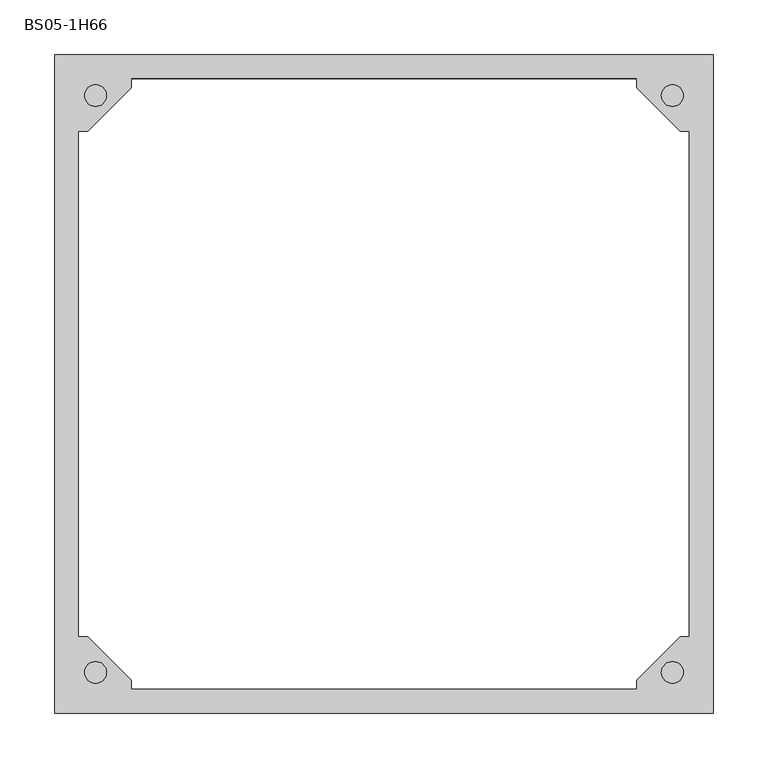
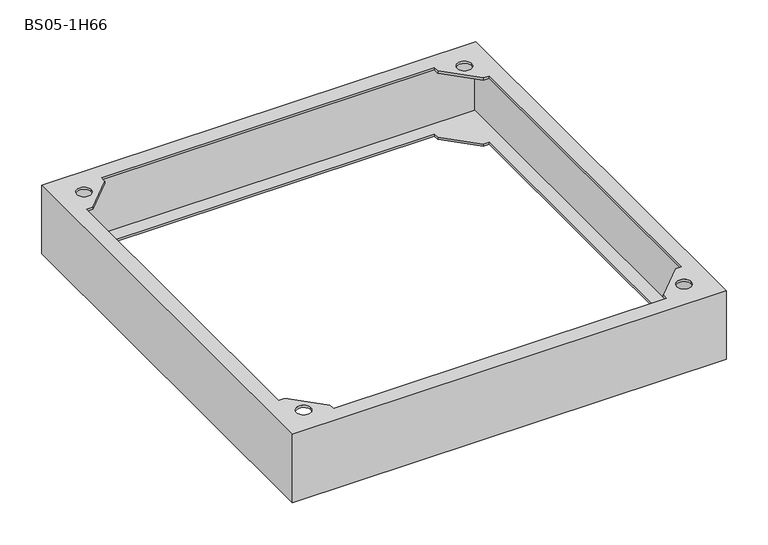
"""IFC4 building model written with IfcOpenShell, lengths in millimetres: proxy geometry, Цоколь для напольных шкафов : BS05-1H66."""

from ifc_helpers import new_model, si_unit, frame, origin, place, context, project, spatial, polyline, circle_curve, source, transform, mapped, element, save
from ifc_brep_helpers import plane_surface, revolved_surface, advanced_brep


def bs05_1h66_db48ce83(model_context):
    return source(origin(), model_context, "Body", "AdvancedBrep", [
        advanced_brep(
        [(300.0, -300.0, 100.0), (300.0, -300.0, 97.0), (300.0, -300.0, 3.0), (300.0, -300.0, 0.0), (300.0, 300.0, 0.0), (300.0, 300.0, 3.0), (300.0, 300.0, 97.0), (300.0, 300.0, 100.0), (278.0, 230.0, 0.0), (278.0, -230.0, 0.0), (278.0, -230.0, 3.0), (278.0, 230.0, 3.0), (297.0, 297.0, 97.0), (297.0, 297.0, 3.0), (297.0, -297.0, 3.0), (297.0, -297.0, 97.0), (278.0, 230.0, 97.0), (278.0, -230.0, 97.0), (278.0, -230.0, 100.0), (278.0, 230.0, 100.0), (-300.0, -300.0, 100.0), (-300.0, -300.0, 97.0), (-300.0, -300.0, 3.0), (-300.0, -300.0, 0.0), (230.0, -278.0, 0.0), (-230.0, -278.0, 0.0), (-230.0, -278.0, 3.0), (230.0, -278.0, 3.0), (-297.0, -297.0, 3.0), (-297.0, -297.0, 97.0), (230.0, -278.0, 97.0), (-230.0, -278.0, 97.0), (-230.0, -278.0, 100.0), (230.0, -278.0, 100.0), (-300.0, 300.0, 100.0), (-300.0, 300.0, 97.0), (-300.0, 300.0, 3.0), (-300.0, 300.0, 0.0), (-278.0, -230.0, 0.0), (-278.0, 230.0, 0.0), (-278.0, 230.0, 3.0), (-278.0, -230.0, 3.0), (-297.0, 297.0, 3.0), (-297.0, 297.0, 97.0), (-278.0, -230.0, 97.0), (-278.0, 230.0, 97.0), (-278.0, 230.0, 100.0), (-278.0, -230.0, 100.0), (-230.0, -270.0, 100.0), (-270.0, -230.0, 100.0), (-270.0, 230.0, 100.0), (-230.0, 270.0, 100.0), (-230.0, 278.0, 100.0), (230.0, 278.0, 100.0), (230.0, 270.0, 100.0), (270.0, 230.0, 100.0), (270.0, -230.0, 100.0), (230.0, -270.0, 100.0), (-252.9289322, -262.9289322, 100.0), (-272.9289322, -262.9289322, 100.0), (272.9289322, -262.9289322, 100.0), (252.9289322, -262.9289322, 100.0), (-252.9289322, 262.9289322, 100.0), (-272.9289322, 262.9289322, 100.0), (272.9289322, 262.9289322, 100.0), (252.9289322, 262.9289322, 100.0), (270.0, 230.0, 0.0), (230.0, 270.0, 0.0), (230.0, 278.0, 0.0), (-230.0, 278.0, 0.0), (-230.0, 270.0, 0.0), (-270.0, 230.0, 0.0), (-270.0, -230.0, 0.0), (-230.0, -270.0, 0.0), (230.0, -270.0, 0.0), (270.0, -230.0, 0.0), (230.0, 278.0, 3.0), (-230.0, 278.0, 3.0), (270.0, -230.0, 3.0), (230.0, -270.0, 3.0), (-230.0, -270.0, 3.0), (-270.0, -230.0, 3.0), (-270.0, 230.0, 3.0), (-230.0, 270.0, 3.0), (230.0, 270.0, 3.0), (270.0, 230.0, 3.0), (-270.0, -230.0, 97.0), (-230.0, -270.0, 97.0), (230.0, -270.0, 97.0), (270.0, -230.0, 97.0), (270.0, 230.0, 97.0), (230.0, 270.0, 97.0), (230.0, 278.0, 97.0), (-230.0, 278.0, 97.0), (-230.0, 270.0, 97.0), (-270.0, 230.0, 97.0), (-252.9289322, -262.9289322, 97.0), (-272.9289322, -262.9289322, 97.0), (272.9289322, -262.9289322, 97.0), (252.9289322, -262.9289322, 97.0), (-252.9289322, 262.9289322, 97.0), (-272.9289322, 262.9289322, 97.0), (272.9289322, 262.9289322, 97.0), (252.9289322, 262.9289322, 97.0)],
        [
            (0, 1),
            (1, 2),
            (2, 3),
            (3, 4),
            (4, 5),
            (5, 6),
            (6, 7),
            (7, 0),
            (8, 9),
            (9, 10),
            (10, 11),
            (11, 8),
            (12, 13),
            (13, 14),
            (14, 15),
            (15, 12),
            (16, 17),
            (17, 18),
            (18, 19),
            (19, 16),
            (0, 20),
            (20, 21),
            (21, 22),
            (22, 23),
            (23, 3),
            (24, 25),
            (25, 26),
            (26, 27),
            (27, 24),
            (14, 28),
            (28, 29),
            (29, 15),
            (30, 31),
            (31, 32),
            (32, 33),
            (33, 30),
            (20, 34),
            (34, 35),
            (35, 36),
            (36, 37),
            (37, 23),
            (38, 39),
            (39, 40),
            (40, 41),
            (41, 38),
            (28, 42),
            (42, 43),
            (43, 29),
            (44, 45),
            (45, 46),
            (46, 47),
            (47, 44),
            (7, 34),
            (48, 49),
            (49, 47),
            (46, 50),
            (50, 51),
            (51, 52),
            (52, 53),
            (53, 54),
            (54, 55),
            (55, 19),
            (18, 56),
            (56, 57),
            (57, 33),
            (32, 48),
            (58, 59, circle_curve(frame((-262.9289322, -262.9289322, 100.0), z_axis=(0.0, 0.0, -1.0), x_axis=(-1.0, 0.0, 0.0)), 10.0)),
            (59, 58, circle_curve(frame((-262.9289322, -262.9289322, 100.0), z_axis=(0.0, 0.0, -1.0), x_axis=(-1.0, 0.0, 0.0)), 10.0)),
            (60, 61, circle_curve(frame((262.9289322, -262.9289322, 100.0), z_axis=(0.0, 0.0, -1.0), x_axis=(-1.0, 0.0, 0.0)), 10.0)),
            (61, 60, circle_curve(frame((262.9289322, -262.9289322, 100.0), z_axis=(0.0, 0.0, -1.0), x_axis=(-1.0, 0.0, 0.0)), 10.0)),
            (62, 63, circle_curve(frame((-262.9289322, 262.9289322, 100.0), z_axis=(0.0, 0.0, -1.0), x_axis=(-1.0, 0.0, 0.0)), 10.0)),
            (63, 62, circle_curve(frame((-262.9289322, 262.9289322, 100.0), z_axis=(0.0, 0.0, -1.0), x_axis=(-1.0, 0.0, 0.0)), 10.0)),
            (64, 65, circle_curve(frame((262.9289322, 262.9289322, 100.0), z_axis=(0.0, 0.0, -1.0), x_axis=(-1.0, 0.0, 0.0)), 10.0)),
            (65, 64, circle_curve(frame((262.9289322, 262.9289322, 100.0), z_axis=(0.0, 0.0, -1.0), x_axis=(-1.0, 0.0, 0.0)), 10.0)),
            (4, 37),
            (8, 66),
            (66, 67),
            (67, 68),
            (68, 69),
            (69, 70),
            (70, 71),
            (71, 39),
            (38, 72),
            (72, 73),
            (73, 25),
            (24, 74),
            (74, 75),
            (75, 9),
            (68, 76),
            (76, 77),
            (77, 69),
            (13, 42),
            (10, 78),
            (78, 79),
            (79, 27),
            (26, 80),
            (80, 81),
            (81, 41),
            (40, 82),
            (82, 83),
            (83, 77),
            (76, 84),
            (84, 85),
            (85, 11),
            (12, 43),
            (86, 87),
            (87, 31),
            (30, 88),
            (88, 89),
            (89, 17),
            (16, 90),
            (90, 91),
            (91, 92),
            (92, 93),
            (93, 94),
            (94, 95),
            (95, 45),
            (44, 86),
            (96, 97, circle_curve(frame((-262.9289322, -262.9289322, 97.0), z_axis=(0.0, 0.0, 1.0), x_axis=(-1.0, 0.0, 0.0)), 10.0)),
            (97, 96, circle_curve(frame((-262.9289322, -262.9289322, 97.0), z_axis=(0.0, 0.0, 1.0), x_axis=(-1.0, 0.0, 0.0)), 10.0)),
            (98, 99, circle_curve(frame((262.9289322, -262.9289322, 97.0), z_axis=(0.0, 0.0, 1.0), x_axis=(-1.0, 0.0, 0.0)), 10.0)),
            (99, 98, circle_curve(frame((262.9289322, -262.9289322, 97.0), z_axis=(0.0, 0.0, 1.0), x_axis=(-1.0, 0.0, 0.0)), 10.0)),
            (100, 101, circle_curve(frame((-262.9289322, 262.9289322, 97.0), z_axis=(0.0, 0.0, 1.0), x_axis=(-1.0, 0.0, 0.0)), 10.0)),
            (101, 100, circle_curve(frame((-262.9289322, 262.9289322, 97.0), z_axis=(0.0, 0.0, 1.0), x_axis=(-1.0, 0.0, 0.0)), 10.0)),
            (102, 103, circle_curve(frame((262.9289322, 262.9289322, 97.0), z_axis=(0.0, 0.0, 1.0), x_axis=(-1.0, 0.0, 0.0)), 10.0)),
            (103, 102, circle_curve(frame((262.9289322, 262.9289322, 97.0), z_axis=(0.0, 0.0, 1.0), x_axis=(-1.0, 0.0, 0.0)), 10.0)),
            (52, 93),
            (92, 53),
            (87, 48),
            (86, 49),
            (89, 56),
            (88, 57),
            (95, 50),
            (94, 51),
            (91, 54),
            (90, 55),
            (58, 96),
            (97, 59),
            (60, 98),
            (99, 61),
            (62, 100),
            (101, 63),
            (64, 102),
            (103, 65),
            (73, 80),
            (72, 81),
            (75, 78),
            (74, 79),
            (71, 82),
            (70, 83),
            (67, 84),
            (66, 85),
        ],
        [
            plane_surface(frame((300.0, 300.0, 100.0), z_axis=(1.0, 0.0, 0.0), x_axis=(0.0, -1.0, 0.0))),
            plane_surface(frame((278.0, 278.0, 0.0), z_axis=(-1.0, 0.0, 0.0), x_axis=(0.0, -1.0, 0.0))),
            plane_surface(frame((297.0, 297.0, 3.0), z_axis=(-1.0, 0.0, 0.0), x_axis=(0.0, -1.0, 0.0))),
            plane_surface(frame((278.0, 278.0, 97.0), z_axis=(-1.0, 0.0, 0.0), x_axis=(0.0, -1.0, 0.0))),
            plane_surface(frame((300.0, -300.0, 100.0), z_axis=(0.0, -1.0, 0.0), x_axis=(-1.0, 0.0, 0.0))),
            plane_surface(frame((278.0, -278.0, 0.0), z_axis=(0.0, 1.0, 0.0), x_axis=(-1.0, 0.0, 0.0))),
            plane_surface(frame((297.0, -297.0, 3.0), z_axis=(0.0, 1.0, 0.0), x_axis=(-1.0, 0.0, 0.0))),
            plane_surface(frame((278.0, -278.0, 97.0), z_axis=(0.0, 1.0, 0.0), x_axis=(-1.0, 0.0, 0.0))),
            plane_surface(frame((-300.0, -300.0, 100.0), z_axis=(-1.0, 0.0, 0.0), x_axis=(0.0, 1.0, 0.0))),
            plane_surface(frame((-278.0, -278.0, 0.0), z_axis=(1.0, 0.0, 0.0), x_axis=(0.0, 1.0, 0.0))),
            plane_surface(frame((-297.0, -297.0, 3.0), z_axis=(1.0, 0.0, 0.0), x_axis=(0.0, 1.0, 0.0))),
            plane_surface(frame((-278.0, -278.0, 97.0), z_axis=(1.0, 0.0, 0.0), x_axis=(0.0, 1.0, 0.0))),
            plane_surface(frame((-278.0, 278.0, 100.0), z_axis=(0.0, 0.0, 1.0), x_axis=(1.0, 0.0, 0.0))),
            plane_surface(frame((-300.0, 300.0, 100.0), z_axis=(0.0, 1.0, 0.0), x_axis=(1.0, 0.0, 0.0))),
            plane_surface(frame((-300.0, 300.0, 0.0), z_axis=(0.0, 0.0, -1.0), x_axis=(1.0, 0.0, 0.0))),
            plane_surface(frame((-278.0, 278.0, 0.0), z_axis=(0.0, -1.0, 0.0), x_axis=(1.0, 0.0, 0.0))),
            plane_surface(frame((-278.0, 278.0, 3.0), z_axis=(0.0, 0.0, 1.0), x_axis=(1.0, 0.0, 0.0))),
            plane_surface(frame((-297.0, 297.0, 3.0), z_axis=(0.0, -1.0, 0.0), x_axis=(1.0, 0.0, 0.0))),
            plane_surface(frame((-297.0, 297.0, 97.0), z_axis=(0.0, 0.0, -1.0), x_axis=(1.0, 0.0, 0.0))),
            plane_surface(frame((-278.0, 278.0, 97.0), z_axis=(0.0, -1.0, 0.0), x_axis=(1.0, 0.0, 0.0))),
            plane_surface(frame((-230.0, -300.0, 100.0), z_axis=(1.0, 0.0, 0.0), x_axis=(0.0, 0.0, -1.0))),
            plane_surface(frame((-230.0, -270.0, 100.0), z_axis=(0.7071067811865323, 0.7071067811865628, 0.0), x_axis=(0.0, 0.0, -1.0))),
            plane_surface(frame((-270.0, -230.0, 100.0), z_axis=(0.0, 1.0, 0.0), x_axis=(0.0, 0.0, -1.0))),
            plane_surface(frame((300.0, -230.0, 100.0), z_axis=(0.0, 1.0, 0.0), x_axis=(0.0, 0.0, -1.0))),
            plane_surface(frame((270.0, -230.0, 100.0), z_axis=(-0.7071067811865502, 0.7071067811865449, 0.0), x_axis=(0.0, 0.0, -1.0))),
            plane_surface(frame((230.0, -270.0, 100.0), z_axis=(-1.0, 0.0, 0.0), x_axis=(0.0, 0.0, -1.0))),
            plane_surface(frame((-300.0, 230.0, 100.0), z_axis=(0.0, -1.0, 0.0), x_axis=(0.0, 0.0, -1.0))),
            plane_surface(frame((-270.0, 230.0, 100.0), z_axis=(0.7071067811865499, -0.7071067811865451, 0.0), x_axis=(0.0, 0.0, -1.0))),
            plane_surface(frame((-230.0, 270.0, 100.0), z_axis=(1.0, 0.0, 0.0), x_axis=(0.0, 0.0, -1.0))),
            plane_surface(frame((230.0, 300.0, 100.0), z_axis=(-1.0, 0.0, 0.0), x_axis=(0.0, 0.0, -1.0))),
            plane_surface(frame((230.0, 270.0, 100.0), z_axis=(-0.7071067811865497, -0.7071067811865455, 0.0), x_axis=(0.0, 0.0, -1.0))),
            plane_surface(frame((270.0, 230.0, 100.0), z_axis=(0.0, -1.0, 0.0), x_axis=(0.0, 0.0, -1.0))),
            revolved_surface(polyline([(-272.9289322, -262.9289322, 97.0), (-272.9289322, -262.9289322, 100.0)]), (-262.9289322, -262.9289322, 100.0), (0.0, 0.0, -1.0)),
            revolved_surface(polyline([(252.92893220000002, -262.9289322, 97.0), (252.92893220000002, -262.9289322, 100.0)]), (262.9289322, -262.9289322, 100.0), (0.0, 0.0, -1.0)),
            revolved_surface(polyline([(-272.9289322, 262.9289322, 97.0), (-272.9289322, 262.9289322, 100.0)]), (-262.9289322, 262.9289322, 100.0), (0.0, 0.0, -1.0)),
            revolved_surface(polyline([(252.92893220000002, 262.9289322, 97.0), (252.92893220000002, 262.9289322, 100.0)]), (262.9289322, 262.9289322, 100.0), (0.0, 0.0, -1.0)),
            plane_surface(frame((-230.0, -300.0, 3.0), z_axis=(1.0, 0.0, 0.0), x_axis=(0.0, 0.0, -1.0))),
            plane_surface(frame((-230.0, -270.0, 3.0), z_axis=(0.7071067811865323, 0.7071067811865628, 0.0), x_axis=(0.0, 0.0, -1.0))),
            plane_surface(frame((-270.0, -230.0, 3.0), z_axis=(0.0, 1.0, 0.0), x_axis=(0.0, 0.0, -1.0))),
            plane_surface(frame((300.0, -230.0, 3.0), z_axis=(0.0, 1.0, 0.0), x_axis=(0.0, 0.0, -1.0))),
            plane_surface(frame((270.0, -230.0, 3.0), z_axis=(-0.7071067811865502, 0.7071067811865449, 0.0), x_axis=(0.0, 0.0, -1.0))),
            plane_surface(frame((230.0, -270.0, 3.0), z_axis=(-1.0, 0.0, 0.0), x_axis=(0.0, 0.0, -1.0))),
            plane_surface(frame((-300.0, 230.0, 3.0), z_axis=(0.0, -1.0, 0.0), x_axis=(0.0, 0.0, -1.0))),
            plane_surface(frame((-270.0, 230.0, 3.0), z_axis=(0.7071067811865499, -0.7071067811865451, 0.0), x_axis=(0.0, 0.0, -1.0))),
            plane_surface(frame((-230.0, 270.0, 3.0), z_axis=(1.0, 0.0, 0.0), x_axis=(0.0, 0.0, -1.0))),
            plane_surface(frame((230.0, 300.0, 3.0), z_axis=(-1.0, 0.0, 0.0), x_axis=(0.0, 0.0, -1.0))),
            plane_surface(frame((230.0, 270.0, 3.0), z_axis=(-0.7071067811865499, -0.7071067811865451, 0.0), x_axis=(0.0, 0.0, -1.0))),
            plane_surface(frame((270.0, 230.0, 3.0), z_axis=(0.0, -1.0, 0.0), x_axis=(0.0, 0.0, -1.0))),
        ],
        [
            (0, [[1, 2, 3, 4, 5, 6, 7, 8]]),
            (1, [[9, 10, 11, 12]]),
            (2, [[13, 14, 15, 16]]),
            (3, [[17, 18, 19, 20]]),
            (4, [[-1, 21, 22, 23, 24, 25, -3, -2]]),
            (5, [[26, 27, 28, 29]]),
            (6, [[-15, 30, 31, 32]]),
            (7, [[33, 34, 35, 36]]),
            (8, [[-22, 37, 38, 39, 40, 41, -24, -23]]),
            (9, [[42, 43, 44, 45]]),
            (10, [[-31, 46, 47, 48]]),
            (11, [[49, 50, 51, 52]]),
            (12, [[-8, 53, -37, -21], [54, 55, -51, 56, 57, 58, 59, 60, 61, 62, -19, 63, 64, 65, -35, 66], [67, 68], [69, 70], [71, 72], [73, 74]]),
            (13, [[-38, -53, -7, -6, -5, 75, -40, -39]]),
            (14, [[-4, -25, -41, -75], [-9, 76, 77, 78, 79, 80, 81, 82, -42, 83, 84, 85, -26, 86, 87, 88]]),
            (15, [[-79, 89, 90, 91]]),
            (16, [[-14, 92, -46, -30], [-11, 93, 94, 95, -28, 96, 97, 98, -44, 99, 100, 101, -90, 102, 103, 104]]),
            (17, [[-92, -13, 105, -47]]),
            (18, [[-32, -48, -105, -16], [106, 107, -33, 108, 109, 110, -17, 111, 112, 113, 114, 115, 116, 117, -49, 118], [119, 120], [121, 122], [123, 124], [125, 126]]),
            (19, [[-59, 127, -114, 128]]),
            (20, [[129, -66, -34, -107]]),
            (21, [[-54, -129, -106, 130]]),
            (22, [[-130, -118, -52, -55]]),
            (23, [[131, -63, -18, -110]]),
            (24, [[-64, -131, -109, 132]]),
            (25, [[-132, -108, -36, -65]]),
            (26, [[133, -56, -50, -117]]),
            (27, [[-57, -133, -116, 134]]),
            (28, [[-134, -115, -127, -58]]),
            (29, [[135, -60, -128, -113]]),
            (30, [[-61, -135, -112, 136]]),
            (31, [[-136, -111, -20, -62]]),
            (32, [[-67, 137, -120, 138]]),
            (32, [[-68, -138, -119, -137]]),
            (33, [[-69, 139, -122, 140]]),
            (33, [[-70, -140, -121, -139]]),
            (34, [[-71, 141, -124, 142]]),
            (34, [[-72, -142, -123, -141]]),
            (35, [[-73, 143, -126, 144]]),
            (35, [[-74, -144, -125, -143]]),
            (36, [[145, -96, -27, -85]]),
            (37, [[-97, -145, -84, 146]]),
            (38, [[-146, -83, -45, -98]]),
            (39, [[147, -93, -10, -88]]),
            (40, [[-94, -147, -87, 148]]),
            (41, [[-148, -86, -29, -95]]),
            (42, [[149, -99, -43, -82]]),
            (43, [[-100, -149, -81, 150]]),
            (44, [[-150, -80, -91, -101]]),
            (45, [[151, -102, -89, -78]]),
            (46, [[-103, -151, -77, 152]]),
            (47, [[-152, -76, -12, -104]]),
        ],
    ),
    ])


if __name__ == "__main__":
    model = new_model("IFC4")
    model_context = context("Model", 3, world=origin())
    ifc_project = project(units=[si_unit("LENGTHUNIT", "METRE", prefix="MILLI")], contexts=[model_context])
    site = spatial("IfcSite", under=ifc_project)
    building = spatial("IfcBuilding", under=site)
    placement = place(None, origin())
    bs05_1h66_shape = bs05_1h66_db48ce83(model_context)
    element("IfcBuildingElementProxy", 1, Name="Цоколь для напольных шкафов : BS05-1H66", ObjectType="Цоколь для напольных шкафов : BS05-1H66", at=placement, inside=building, context=model_context, shape_type="MappedRepresentation", body=[
        mapped(bs05_1h66_shape, transform((0.0, 0.0, 0.0), x_axis=(1.0, 0.0, 0.0), y_axis=(0.0, 1.0, 0.0), z_axis=(0.0, 0.0, 1.0))),
    ])
    save(model, "model.ifc")
